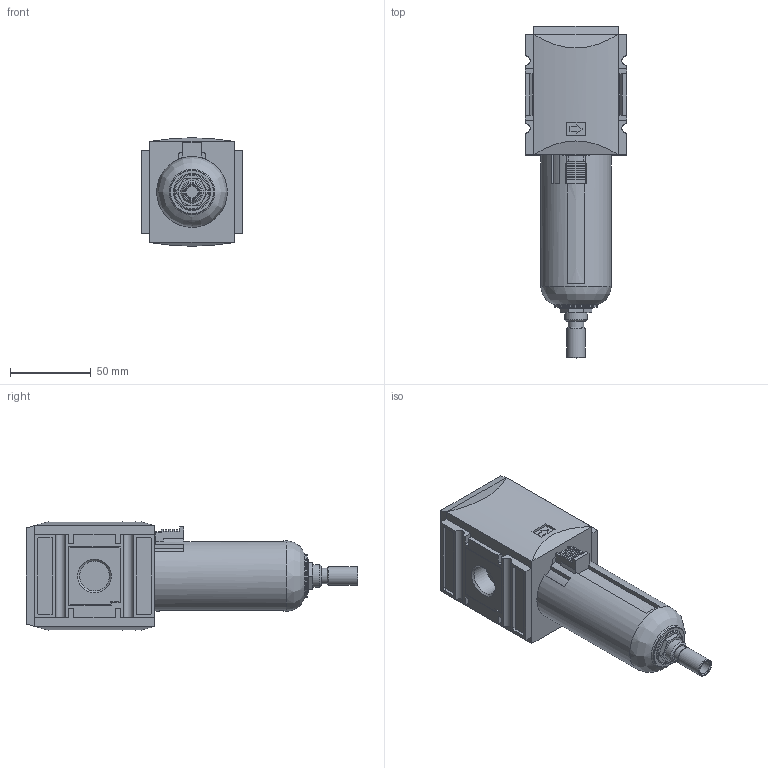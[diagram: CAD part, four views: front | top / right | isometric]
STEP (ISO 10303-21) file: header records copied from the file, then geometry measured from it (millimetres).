
FILE_DESCRIPTION( ( 'STEP AP214' ), ' ' );
FILE_NAME( 'p:/temp/worker_1541/1136_3400/app_54_02017011214344327733655192d056f_000000_00_00_000000/format_1/FU 844.stp', '2017-01-12T13:34:45', ( '' ), ( '' ), ' ', 'PARTsolutions', ' ' );
FILE_SCHEMA( ( 'AUTOMOTIVE_DESIGN { 1 0 10303 214 1 1 1 1 }' ) );
Length unit declared in the file: millimetre
Products named in the file (3): FU 844; _FU 844-1; _FU 844-4
Assembly tree (2 placements, depth 2):
  FU 844
    _FU 844-1
    _FU 844-4
Bounding box: 63 x 206 x 67.13 mm (x, y, z)
Volume: 436253.5 mm3; surface area: 52845.6 mm2
Topology: 2 solids, 3 shells, 287 faces, 734 edges, 480 vertices
Faces by surface type: plane 202, cylinder 63, cone 16, torus 5, bspline 1
Full cylindrical faces by diameter (mm): 7.5 x1, 8.566 x2, 8.917 x1, 9.728 x1, 11.3 x1, 14 x1, 18.631 x2, 22 x1, 23 x1, 27 x1, 43.8 x1
Entity records: 10901 total; most frequent: CARTESIAN_POINT 1587, DIRECTION 1436, ORIENTED_EDGE 1410, EDGE_CURVE 705, LINE 516, VECTOR 516, VERTEX_POINT 477, AXIS2_PLACEMENT_3D 460
